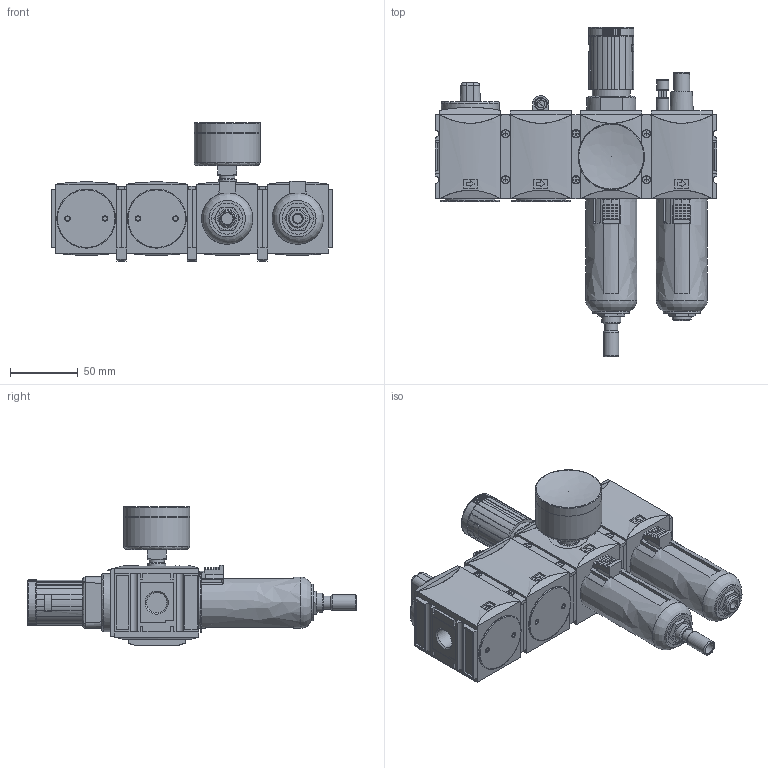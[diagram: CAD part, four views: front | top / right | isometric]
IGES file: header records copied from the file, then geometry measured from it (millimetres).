
Start section: Data from Parasolid IGES Translator 17.0.49, Copyright(c) 2006 Siemens P LM Software. All Rights Reserved.
Global section: file name: FU 1401.igs; native system: By Siemens PLM Incorporated; preprocessor: XPlus GENERIC/IGES 17.0.49; author: Noname; organization: Noname; date: 20170113.081220; units: millimetre
Bounding box: 208 x 242.98 x 102.1 mm (x, y, z)
Surface area: 163849.2 mm2 (no closed solid volume)
Topology: 0 solids, 0 shells, 1957 faces, 10075 edges, 9816 vertices
Faces by surface type: extrusion 1314, revolution 643
